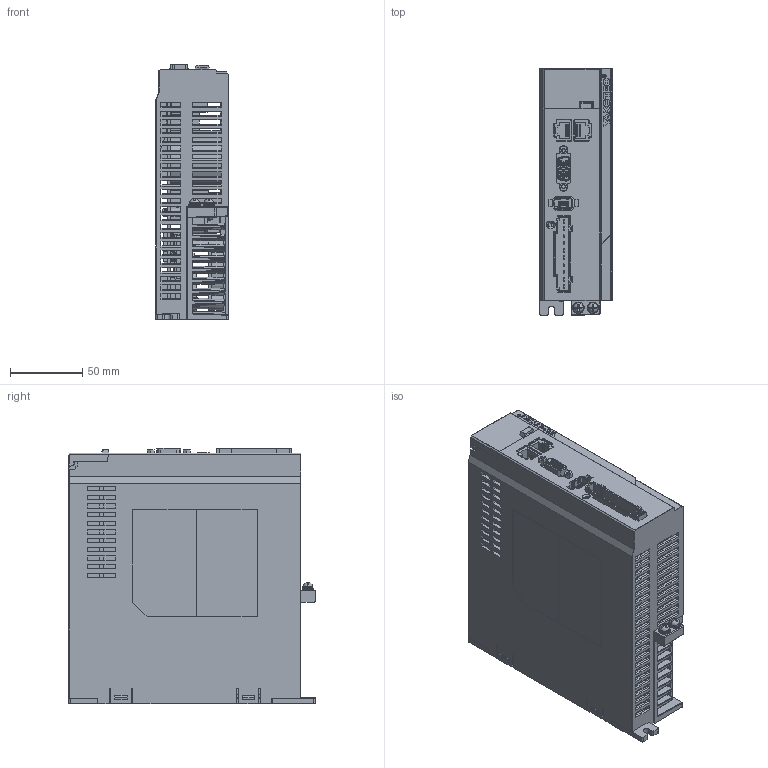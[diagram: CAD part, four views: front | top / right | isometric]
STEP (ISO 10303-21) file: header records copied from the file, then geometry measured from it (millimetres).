
FILE_DESCRIPTION((''),'2;1');
FILE_NAME('AS3-10BNI_ASM','2021-11-23T10:43:42',('Admin'),(''),'CREO PARAMETRIC BY PTC INC, 2020074','CREO PARAMETRIC BY PTC INC, 2020074','');
FILE_SCHEMA(('CONFIG_CONTROL_DESIGN','SHAPE_APPEARANCE_LAYERS_GROUPS'));
Products named in the file (1): AS3-10BNI_ASM
Bounding box: 50.2 x 170 x 176.3 mm (x, y, z)
Volume: 215796.9 mm3; surface area: 356489.1 mm2
Topology: 23 solids, 25 shells, 5150 faces, 14204 edges, 9134 vertices
Faces by surface type: plane 3037, cylinder 1278, bspline 338, torus 195, cone 161, extrusion 85, sphere 56
Entity records: 203159 total; most frequent: CARTESIAN_POINT 48975, ORIENTED_EDGE 28322, DIRECTION 24575, EDGE_CURVE 14165, VECTOR 9795, LINE 9710, VERTEX_POINT 9134, AXIS2_PLACEMENT_3D 7390
